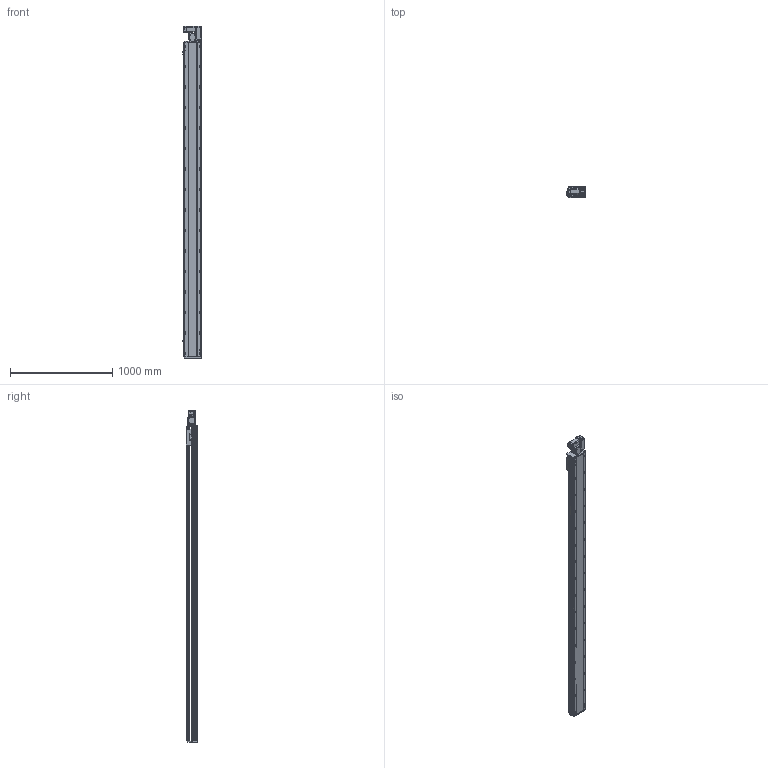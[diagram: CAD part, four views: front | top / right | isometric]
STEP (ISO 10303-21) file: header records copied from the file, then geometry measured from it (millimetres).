
FILE_DESCRIPTION (( 'STEP AP214' ), '1' );
FILE_NAME ('RTB17S-XX-2850-R-M40-C4.STEP', '2025-12-11T07:53:46', ( '' ), ( '' ), 'SwSTEP 2.0', 'SolidWorks 2018', '' );
FILE_SCHEMA (( 'AUTOMOTIVE_DESIGN' ));
Length unit declared in the file: millimetre
Products named in the file (14): RTB17S-L-014-T20--々湍釱^RTB17S-R-々湍釱蚾饜-400W_RTB17S-XX-XX-R-M40-C4; RTB17S-L-004佪裝蹟譫蟀諉釱^RTB17S-XX-XX-R-M40-C4; RTH13-BL-012覜茼え俋离^RTB17S-XX-XX-R-M40-C4; RTB17S-L-001耜醱啣^RTB17S-XX-XX-R-M40-C4; RTB17S-L-007奻裔^RTB17S-XX-XX-R-M40-C4; RTB17S-R-々湍釱蚾饜-400W^RTB17S-XX-XX-R-M40-C4; RTB17S-XX-2850-R-M40-C4; RTB14-L-005P--轴承塑胶压盖^RTB17S-R-皮带座装配-400W_RTB17S-XX-XX-R-M40-C4; RTB14-L-018P^RTB17S-R-々湍釱蚾饜-400W_RTB17S-XX-XX-R-M40-C4; OMRON EE-SX672 传感器^RTB17S-XX-XX-R-M40-C4; RTB14-L-017P^RTB17S-R-々湍釱蚾饜-400W_RTB17S-XX-XX-R-M40-C4; RTB17-R-011菁釱^RTB17S-XX-XX-R-M40-C4; 400W侜督萇儂^RTB17S-XX-XX-R-M40-C4; RTB14-L-008-M20--萇儂啣^RTB17S-R-々湍釱蚾饜-400W_RTB17S-XX-XX-R-M40-C4
Assembly tree (16 placements, depth 3):
  RTB17S-XX-2850-R-M40-C4
    RTB17-R-011菁釱^RTB17S-XX-XX-R-M40-C4
    RTB17S-L-007奻裔^RTB17S-XX-XX-R-M40-C4
    OMRON EE-SX672 传感器^RTB17S-XX-XX-R-M40-C4  x3
    RTB17S-L-001耜醱啣^RTB17S-XX-XX-R-M40-C4
    400W侜督萇儂^RTB17S-XX-XX-R-M40-C4
    RTB17S-L-004佪裝蹟譫蟀諉釱^RTB17S-XX-XX-R-M40-C4
    RTH13-BL-012覜茼え俋离^RTB17S-XX-XX-R-M40-C4
    RTB17S-R-々湍釱蚾饜-400W^RTB17S-XX-XX-R-M40-C4
      RTB17S-L-014-T20--々湍釱^RTB17S-R-々湍釱蚾饜-400W_RTB17S-XX-XX-R-M40-C4
      RTB14-L-005P--轴承塑胶压盖^RTB17S-R-皮带座装配-400W_RTB17S-XX-XX-R-M40-C4
      RTB14-L-008-M20--萇儂啣^RTB17S-R-々湍釱蚾饜-400W_RTB17S-XX-XX-R-M40-C4
      RTB14-L-017P^RTB17S-R-々湍釱蚾饜-400W_RTB17S-XX-XX-R-M40-C4  x2
      RTB14-L-018P^RTB17S-R-々湍釱蚾饜-400W_RTB17S-XX-XX-R-M40-C4
Bounding box: 183.5 x 108 x 3241 mm (x, y, z)
Volume: 27055815.2 mm3; surface area: 3097890 mm2
Topology: 15 solids, 15 shells, 2349 faces, 6573 edges, 4293 vertices
Faces by surface type: plane 1086, cylinder 815, bspline 301, cone 139, torus 8
Entity records: 69545 total; most frequent: CARTESIAN_POINT 19778, ORIENTED_EDGE 9990, DIRECTION 9206, EDGE_CURVE 4995, VERTEX_POINT 3281, AXIS2_PLACEMENT_3D 3211, VECTOR 2784, LINE 2784
